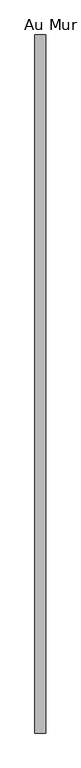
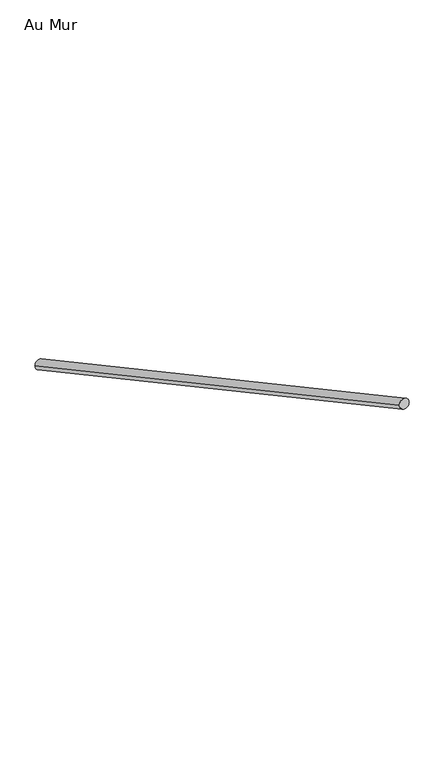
"""IFC4 building model written with IfcOpenShell, lengths in millimetres: railing geometry, Au Mur."""

from ifc_helpers import new_model, si_unit, frame, origin, place, context, project, spatial, ellipse_curve, source, transform, mapped, element, save
from ifc_brep_helpers import plane_surface, cylinder_surface, advanced_brep


def au_mur_51ce0c62(model_context):
    return source(origin(), model_context, "Body", "AdvancedBrep", [
        advanced_brep(
        [(-17384.4938634, 16026.177026, 717.5097142), (-17354.4938634, 16026.177026, 717.5097142), (-17384.4938634, 14066.177026, 1776.2597142), (-17354.4938634, 14066.177026, 1776.2597142)],
        [
            (0, 1, ellipse_curve(frame((-17369.4938634, 16026.177026, 717.5097142), z_axis=(0.0, 1.0, 0.0), x_axis=(0.0, 0.0, -1.0)), 17.0485601, 15.0)),
            (1, 0, ellipse_curve(frame((-17369.4938634, 16026.177026, 717.5097142), z_axis=(0.0, 1.0, 0.0), x_axis=(0.0, 0.0, -1.0)), 17.0485601, 15.0)),
            (2, 3, ellipse_curve(frame((-17369.4938634, 14066.177026, 1776.2597142), z_axis=(0.0, -1.0, 0.0), x_axis=(0.0, 0.0, -1.0)), 17.0485601, 15.0)),
            (3, 2, ellipse_curve(frame((-17369.4938634, 14066.177026, 1776.2597142), z_axis=(0.0, -1.0, 0.0), x_axis=(0.0, 0.0, -1.0)), 17.0485601, 15.0)),
            (0, 2),
            (3, 1),
        ],
        [
            plane_surface(frame((-17369.4938634, 16026.177026, 734.5582742), z_axis=(0.0, 1.0, 0.0), x_axis=(0.0, 0.0, -1.0))),
            plane_surface(frame((-17369.4938634, 14066.177026, 1793.3082742), z_axis=(0.0, -1.0, 0.0), x_axis=(0.0, 0.0, -1.0))),
            cylinder_surface(frame((-17369.4938634, 16019.0479677, 721.3606787), z_axis=(0.0, 0.8798397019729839, -0.47527055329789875), x_axis=(1.0, 0.0, 0.0)), 15.0),
        ],
        [
            (0, [[1, 2]]),
            (1, [[3, 4]]),
            (2, [[-1, 5, -4, 6]]),
            (2, [[-2, -6, -3, -5]]),
        ],
    ),
    ])


if __name__ == "__main__":
    model = new_model("IFC4")
    model_context = context("Model", 3, world=origin())
    ifc_project = project(units=[si_unit("LENGTHUNIT", "METRE", prefix="MILLI")], contexts=[model_context])
    site = spatial("IfcSite", under=ifc_project)
    building = spatial("IfcBuilding", under=site)
    placement = place(None, origin())
    au_mur_shape = au_mur_51ce0c62(model_context)
    element("IfcRailing", 1, ObjectType="Au Mur", at=placement, inside=building, context=model_context, shape_type="MappedRepresentation", body=[
        mapped(au_mur_shape, transform((0.0, 0.0, 0.0), x_axis=(1.0, 0.0, 0.0), y_axis=(0.0, 1.0, 0.0), z_axis=(0.0, 0.0, 1.0))),
    ])
    save(model, "model.ifc")
